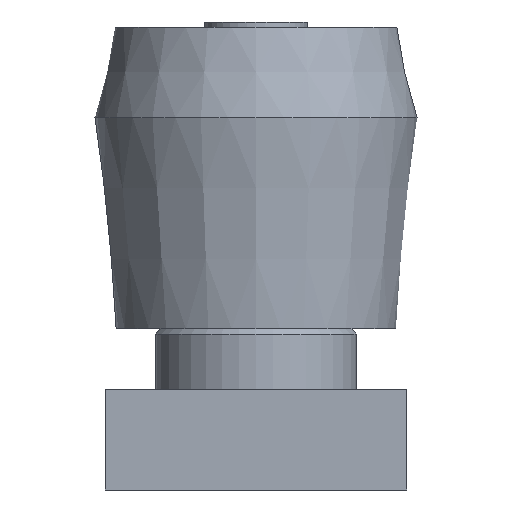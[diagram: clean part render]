
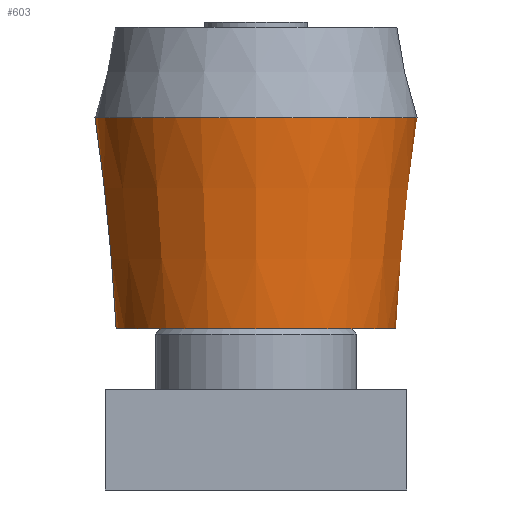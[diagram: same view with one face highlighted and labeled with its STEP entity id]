
A CAD part, left-side view. The second image highlights one B-rep face of the part: STEP entity #603.
In plain terms, the highlighted conical face has half-angle 5.711 degrees and reference radius 14.95 mm.
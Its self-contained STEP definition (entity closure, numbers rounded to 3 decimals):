
#83=CONICAL_SURFACE('',#689,14.95,5.711);
#140=FACE_BOUND('',#265,.T.);
#183=FACE_OUTER_BOUND('',#264,.T.);
#264=EDGE_LOOP('',(#533));
#265=EDGE_LOOP('',(#534));
#320=CIRCLE('',#690,16.);
#321=CIRCLE('',#691,13.9);
#373=VERTEX_POINT('',#1053);
#374=VERTEX_POINT('',#1055);
#430=EDGE_CURVE('',#373,#373,#320,.T.);
#431=EDGE_CURVE('',#374,#374,#321,.T.);
#533=ORIENTED_EDGE('',*,*,#430,.F.);
#534=ORIENTED_EDGE('',*,*,#431,.T.);
#603=ADVANCED_FACE('',(#183,#140),#83,.T.);
#689=AXIS2_PLACEMENT_3D('',#1052,#870,#871);
#690=AXIS2_PLACEMENT_3D('',#1054,#872,#873);
#691=AXIS2_PLACEMENT_3D('',#1056,#874,#875);
#870=DIRECTION('center_axis',(0.,1.,0.));
#871=DIRECTION('ref_axis',(-1.,0.,0.));
#872=DIRECTION('center_axis',(0.,1.,0.));
#873=DIRECTION('ref_axis',(-1.,0.,0.));
#874=DIRECTION('center_axis',(0.,1.,0.));
#875=DIRECTION('ref_axis',(-1.,0.,0.));
#1052=CARTESIAN_POINT('Origin',(0.,10.5,0.));
#1053=CARTESIAN_POINT('',(-16.,21.,0.));
#1054=CARTESIAN_POINT('Origin',(0.,21.,0.));
#1055=CARTESIAN_POINT('',(-13.9,0.,0.));
#1056=CARTESIAN_POINT('Origin',(0.,0.,0.));
